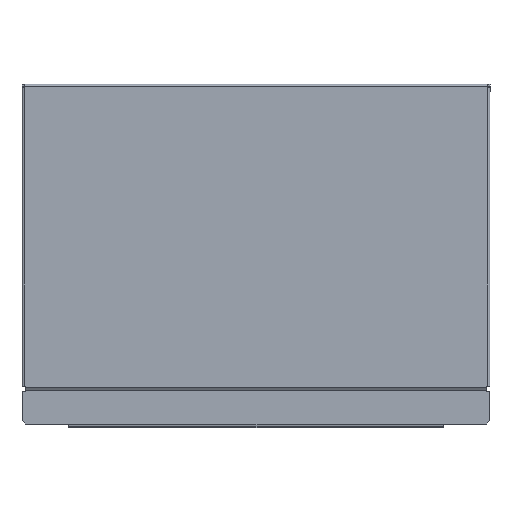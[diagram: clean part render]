
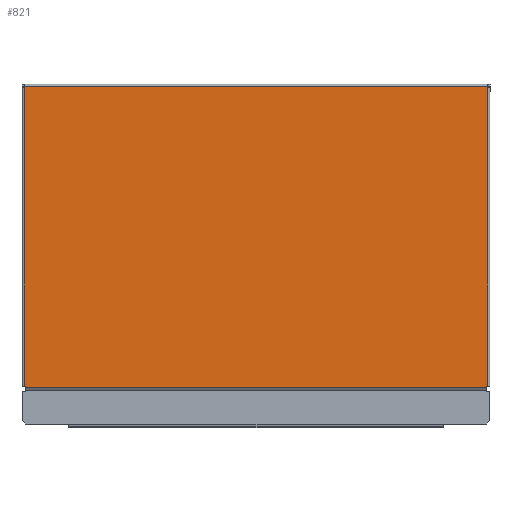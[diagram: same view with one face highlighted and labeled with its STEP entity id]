
A CAD part, front view. The second image highlights one B-rep face of the part: STEP entity #821.
In plain terms, the highlighted planar face has unit normal (0, -1, 0).
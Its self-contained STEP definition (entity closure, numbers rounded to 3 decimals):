
#122 = VERTEX_POINT ( 'NONE', #402 ) ;
#183 = VERTEX_POINT ( 'NONE', #390 ) ;
#280 = CARTESIAN_POINT ( 'NONE',  ( 104., -6., 151.5 ) ) ;
#284 = CARTESIAN_POINT ( 'NONE',  ( -104., -6., 17.5 ) ) ;
#297 = CARTESIAN_POINT ( 'NONE',  ( 104., -6., 17.5 ) ) ;
#300 = CARTESIAN_POINT ( 'NONE',  ( 103.5, -6., 17.5 ) ) ;
#317 = CARTESIAN_POINT ( 'NONE',  ( -104., -6., 152. ) ) ;
#321 = CARTESIAN_POINT ( 'NONE',  ( -104., -6., 151.5 ) ) ;
#324 = CARTESIAN_POINT ( 'NONE',  ( 103.5, -6., 17. ) ) ;
#327 = CARTESIAN_POINT ( 'NONE',  ( 104., -6., 152. ) ) ;
#390 = CARTESIAN_POINT ( 'NONE',  ( -103.5, -6., 17. ) ) ;
#402 = CARTESIAN_POINT ( 'NONE',  ( -103.5, -6., 17.5 ) ) ;
#467 = VERTEX_POINT ( 'NONE', #327 ) ;
#472 = VERTEX_POINT ( 'NONE', #324 ) ;
#475 = VERTEX_POINT ( 'NONE', #321 ) ;
#493 = VERTEX_POINT ( 'NONE', #317 ) ;
#509 = VERTEX_POINT ( 'NONE', #300 ) ;
#512 = VERTEX_POINT ( 'NONE', #297 ) ;
#522 = VERTEX_POINT ( 'NONE', #284 ) ;
#525 = VERTEX_POINT ( 'NONE', #280 ) ;
#671 = EDGE_CURVE ( 'NONE', #493, #475, #2213, .T. ) ;
#672 = EDGE_CURVE ( 'NONE', #493, #467, #2215, .T. ) ;
#673 = EDGE_CURVE ( 'NONE', #467, #525, #2217, .T. ) ;
#674 = EDGE_CURVE ( 'NONE', #525, #512, #2219, .T. ) ;
#675 = EDGE_CURVE ( 'NONE', #509, #512, #2221, .T. ) ;
#676 = EDGE_CURVE ( 'NONE', #472, #509, #2223, .T. ) ;
#677 = EDGE_CURVE ( 'NONE', #183, #472, #2225, .T. ) ;
#678 = EDGE_CURVE ( 'NONE', #122, #183, #2227, .T. ) ;
#679 = EDGE_CURVE ( 'NONE', #522, #122, #2229, .T. ) ;
#680 = EDGE_CURVE ( 'NONE', #475, #522, #2231, .T. ) ;
#724 = AXIS2_PLACEMENT_3D ( 'NONE', #1538, #1536, #1535 ) ;
#821 = ADVANCED_FACE ( 'NONE', ( #2251 ), #1539, .T. ) ;
#1046 = EDGE_LOOP ( 'NONE', ( #1949, #1948, #1947, #1946, #1945, #1944, #1943, #1942, #1941, #1940 ) ) ;
#1535 = DIRECTION ( 'NONE',  ( 1., 0., 0. ) ) ;
#1536 = DIRECTION ( 'NONE',  ( 0., -1., 0. ) ) ;
#1538 = CARTESIAN_POINT ( 'NONE',  ( -105., -6., 17. ) ) ;
#1539 = PLANE ( 'NONE',  #724 ) ;
#1579 = DIRECTION ( 'NONE',  ( 0., 0., -1. ) ) ;
#1580 = CARTESIAN_POINT ( 'NONE',  ( -104., -6., 170.385 ) ) ;
#1581 = DIRECTION ( 'NONE',  ( 1., 0., 0. ) ) ;
#1583 = CARTESIAN_POINT ( 'NONE',  ( -105., -6., 17.5 ) ) ;
#1585 = DIRECTION ( 'NONE',  ( 0., 0., -1. ) ) ;
#1586 = CARTESIAN_POINT ( 'NONE',  ( -103.5, -6., 17.5 ) ) ;
#1587 = DIRECTION ( 'NONE',  ( 1., 0., 0. ) ) ;
#1589 = CARTESIAN_POINT ( 'NONE',  ( -105., -6., 17. ) ) ;
#1590 = DIRECTION ( 'NONE',  ( 0., 0., 1. ) ) ;
#1591 = CARTESIAN_POINT ( 'NONE',  ( 103.5, -6., 15.3 ) ) ;
#1593 = DIRECTION ( 'NONE',  ( 1., 0., 0. ) ) ;
#1594 = CARTESIAN_POINT ( 'NONE',  ( 103.5, -6., 17.5 ) ) ;
#1596 = DIRECTION ( 'NONE',  ( 0., 0., -1. ) ) ;
#1597 = CARTESIAN_POINT ( 'NONE',  ( 104., -6., 170.385 ) ) ;
#1598 = DIRECTION ( 'NONE',  ( 0., 0., -1. ) ) ;
#1600 = CARTESIAN_POINT ( 'NONE',  ( 104., -6., 170.385 ) ) ;
#1601 = DIRECTION ( 'NONE',  ( 1., 0., 0. ) ) ;
#1602 = CARTESIAN_POINT ( 'NONE',  ( -105., -6., 152. ) ) ;
#1603 = DIRECTION ( 'NONE',  ( 0., 0., -1. ) ) ;
#1606 = CARTESIAN_POINT ( 'NONE',  ( -104., -6., 170.385 ) ) ;
#1940 = ORIENTED_EDGE ( 'NONE', *, *, #671, .T. ) ;
#1941 = ORIENTED_EDGE ( 'NONE', *, *, #672, .F. ) ;
#1942 = ORIENTED_EDGE ( 'NONE', *, *, #673, .F. ) ;
#1943 = ORIENTED_EDGE ( 'NONE', *, *, #674, .F. ) ;
#1944 = ORIENTED_EDGE ( 'NONE', *, *, #675, .T. ) ;
#1945 = ORIENTED_EDGE ( 'NONE', *, *, #676, .T. ) ;
#1946 = ORIENTED_EDGE ( 'NONE', *, *, #677, .T. ) ;
#1947 = ORIENTED_EDGE ( 'NONE', *, *, #678, .T. ) ;
#1948 = ORIENTED_EDGE ( 'NONE', *, *, #679, .T. ) ;
#1949 = ORIENTED_EDGE ( 'NONE', *, *, #680, .T. ) ;
#2213 = LINE ( 'NONE', #1606, #2214 ) ;
#2214 = VECTOR ( 'NONE', #1603, 1000. ) ;
#2215 = LINE ( 'NONE', #1602, #2216 ) ;
#2216 = VECTOR ( 'NONE', #1601, 1000. ) ;
#2217 = LINE ( 'NONE', #1600, #2218 ) ;
#2218 = VECTOR ( 'NONE', #1598, 1000. ) ;
#2219 = LINE ( 'NONE', #1597, #2220 ) ;
#2220 = VECTOR ( 'NONE', #1596, 1000. ) ;
#2221 = LINE ( 'NONE', #1594, #2222 ) ;
#2222 = VECTOR ( 'NONE', #1593, 1000. ) ;
#2223 = LINE ( 'NONE', #1591, #2224 ) ;
#2224 = VECTOR ( 'NONE', #1590, 1000. ) ;
#2225 = LINE ( 'NONE', #1589, #2226 ) ;
#2226 = VECTOR ( 'NONE', #1587, 1000. ) ;
#2227 = LINE ( 'NONE', #1586, #2228 ) ;
#2228 = VECTOR ( 'NONE', #1585, 1000. ) ;
#2229 = LINE ( 'NONE', #1583, #2230 ) ;
#2230 = VECTOR ( 'NONE', #1581, 1000. ) ;
#2231 = LINE ( 'NONE', #1580, #2232 ) ;
#2232 = VECTOR ( 'NONE', #1579, 1000. ) ;
#2251 = FACE_OUTER_BOUND ( 'NONE', #1046, .T. ) ;
